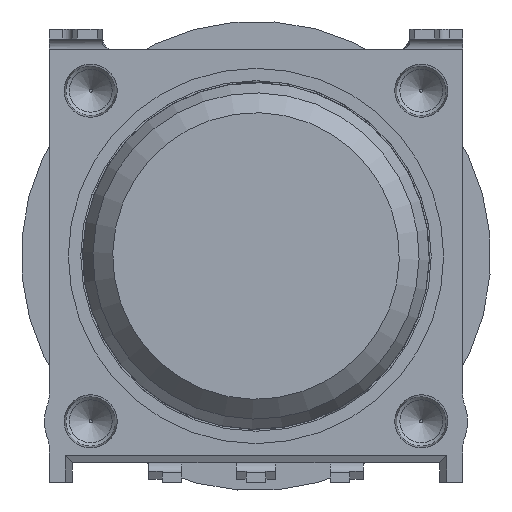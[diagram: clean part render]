
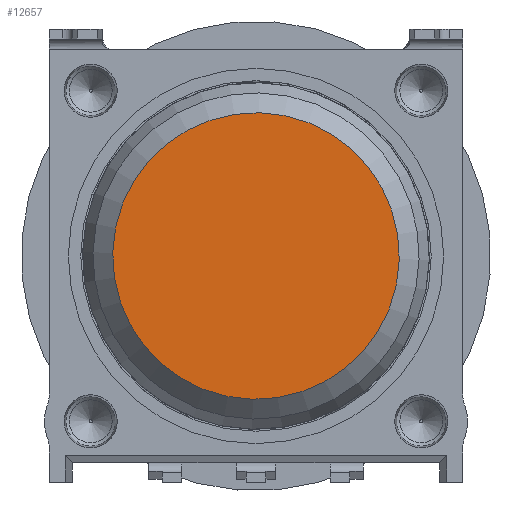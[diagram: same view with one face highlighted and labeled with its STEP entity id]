
A CAD part, left-side view. The second image highlights one B-rep face of the part: STEP entity #12657.
In plain terms, the highlighted planar face has unit normal (-1, 0, 0) as drawn and (0, 0, 1) by its records, which use the part's own axes.
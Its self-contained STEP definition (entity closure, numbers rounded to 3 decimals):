
#1155=CIRCLE('',#14163,4.334);
#2978=ORIENTED_EDGE('',*,*,#5868,.T.);
#5868=EDGE_CURVE('',#7479,#7479,#1155,.T.);
#7479=VERTEX_POINT('',#19718);
#10662=EDGE_LOOP('',(#2978));
#11526=FACE_BOUND('',#10662,.T.);
#12139=PLANE('',#14162);
#12657=ADVANCED_FACE('',(#11526),#12139,.T.);
#14162=AXIS2_PLACEMENT_3D('',#19716,#16308,#16309);
#14163=AXIS2_PLACEMENT_3D('',#19717,#16310,#16311);
#16308=DIRECTION('',(0.,0.,1.));
#16309=DIRECTION('',(1.,0.,0.));
#16310=DIRECTION('',(0.,0.,1.));
#16311=DIRECTION('',(1.,0.,0.));
#19716=CARTESIAN_POINT('',(0.,0.,1.4));
#19717=CARTESIAN_POINT('',(0.,0.,1.4));
#19718=CARTESIAN_POINT('',(4.334,0.,1.4));
